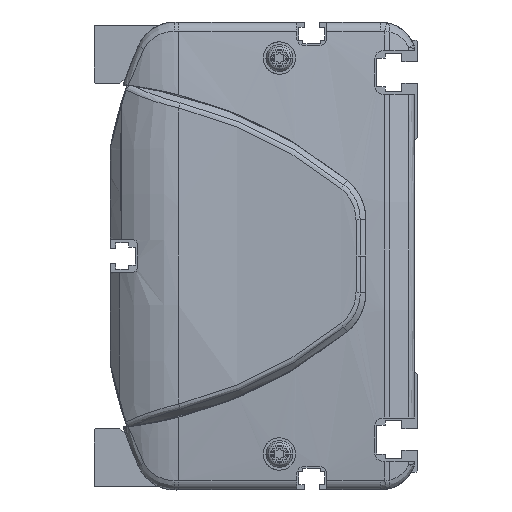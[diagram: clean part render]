
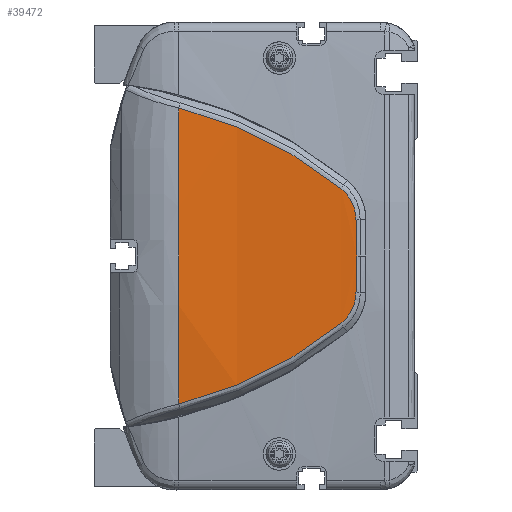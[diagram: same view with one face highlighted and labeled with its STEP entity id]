
A CAD part, left-side view. The second image highlights one B-rep face of the part: STEP entity #39472.
In plain terms, the highlighted cylindrical face has radius 500 mm (diameter 1000 mm), a partial arc.
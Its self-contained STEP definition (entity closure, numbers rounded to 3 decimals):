
#35728=CARTESIAN_POINT('',(486.,66.362,0.));
#35729=DIRECTION('',(0.,-1.,0.));
#35730=DIRECTION('',(-0.997,0.,0.082));
#35731=AXIS2_PLACEMENT_3D('',#35728,#35729,#35730);
#36612=CARTESIAN_POINT('',(-13.648,21.313,
-18.759));
#36613=CARTESIAN_POINT('',(-13.449,27.904,
-24.058));
#36614=CARTESIAN_POINT('',(-12.934,42.195,
-33.27));
#36615=CARTESIAN_POINT('',(-12.471,58.156,
-39.127));
#36616=CARTESIAN_POINT('',(-12.306,66.362,
-41.121));
#36618=CARTESIAN_POINT('',(-12.306,66.362,
41.121));
#36619=CARTESIAN_POINT('',(-12.471,58.156,
39.127));
#36620=CARTESIAN_POINT('',(-12.934,42.195,
33.27));
#36621=CARTESIAN_POINT('',(-13.449,27.904,
24.058));
#36622=CARTESIAN_POINT('',(-13.648,21.313,
18.759));
#36624=CARTESIAN_POINT('',(-13.648,21.313,
18.759));
#36625=CARTESIAN_POINT('',(-13.686,20.035,
17.736));
#36626=CARTESIAN_POINT('',(-13.779,17.936,
15.107));
#36627=CARTESIAN_POINT('',(-13.863,17.152,
11.827));
#36628=CARTESIAN_POINT('',(-13.896,17.124,
10.178));
#36630=CARTESIAN_POINT('',(-13.896,17.124,
10.178));
#36631=CARTESIAN_POINT('',(-13.92,17.107,
9.027));
#36632=CARTESIAN_POINT('',(-13.958,17.067,
6.737));
#36633=CARTESIAN_POINT('',(-13.993,16.98,
3.343));
#36634=CARTESIAN_POINT('',(-14.,16.898,
1.109));
#36635=CARTESIAN_POINT('',(-14.,16.849,
0.));
#36637=CARTESIAN_POINT('',(-14.,16.849,
0.));
#36638=CARTESIAN_POINT('',(-14.,16.898,
-1.109));
#36639=CARTESIAN_POINT('',(-13.993,16.98,
-3.343));
#36640=CARTESIAN_POINT('',(-13.959,17.067,
-6.736));
#36641=CARTESIAN_POINT('',(-13.92,17.107,
-9.029));
#36642=CARTESIAN_POINT('',(-13.896,17.124,
-10.18));
#36644=CARTESIAN_POINT('',(-13.896,17.124,
-10.18));
#36645=CARTESIAN_POINT('',(-13.863,17.152,
-11.828));
#36646=CARTESIAN_POINT('',(-13.779,17.937,
-15.109));
#36647=CARTESIAN_POINT('',(-13.686,20.035,
-17.736));
#36648=CARTESIAN_POINT('',(-13.648,21.313,
-18.759));
#37296=VERTEX_POINT('',#36612);
#37297=VERTEX_POINT('',#36616);
#37298=CARTESIAN_POINT('',(-12.306,66.362,
41.121));
#37299=VERTEX_POINT('',#37298);
#37300=VERTEX_POINT('',#36622);
#37301=VERTEX_POINT('',#36628);
#37302=VERTEX_POINT('',#36635);
#37303=VERTEX_POINT('',#36642);
#39453=CARTESIAN_POINT('',(486.,8.006,0.));
#39454=DIRECTION('',(0.,1.,0.));
#39455=DIRECTION('',(1.,0.,0.));
#39456=AXIS2_PLACEMENT_3D('',#39453,#39454,#39455);
#39457=CYLINDRICAL_SURFACE('',#39456,500.);
#39459=ORIENTED_EDGE('',*,*,#39458,.T.);
#39460=ORIENTED_EDGE('',*,*,#38098,.F.);
#39462=ORIENTED_EDGE('',*,*,#39461,.T.);
#39464=ORIENTED_EDGE('',*,*,#39463,.T.);
#39466=ORIENTED_EDGE('',*,*,#39465,.T.);
#39468=ORIENTED_EDGE('',*,*,#39467,.T.);
#39469=ORIENTED_EDGE('',*,*,#39443,.T.);
#39470=EDGE_LOOP('',(#39459,#39460,#39462,#39464,#39466,#39468,#39469));
#39471=FACE_OUTER_BOUND('',#39470,.F.);
#39472=ADVANCED_FACE('',(#39471),#39457,.T.);
#35732=CIRCLE('',#35731,500.);
#36617=B_SPLINE_CURVE_WITH_KNOTS('',3,(#36612,#36613,#36614,#36615,#36616),
.UNSPECIFIED.,.F.,.F.,(4,1,4),(0.,0.5,1.),.UNSPECIFIED.);
#36623=B_SPLINE_CURVE_WITH_KNOTS('',3,(#36618,#36619,#36620,#36621,#36622),
.UNSPECIFIED.,.F.,.F.,(4,1,4),(0.,0.5,1.),.UNSPECIFIED.);
#36629=B_SPLINE_CURVE_WITH_KNOTS('',3,(#36624,#36625,#36626,#36627,#36628),
.UNSPECIFIED.,.F.,.F.,(4,1,4),(0.,0.5,1.),.UNSPECIFIED.);
#36636=B_SPLINE_CURVE_WITH_KNOTS('',3,(#36630,#36631,#36632,#36633,#36634,
#36635),.UNSPECIFIED.,.F.,.F.,(4,1,1,4),(0.,0.333,
0.667,1.),.UNSPECIFIED.);
#36643=B_SPLINE_CURVE_WITH_KNOTS('',3,(#36637,#36638,#36639,#36640,#36641,
#36642),.UNSPECIFIED.,.F.,.F.,(4,1,1,4),(0.,0.333,
0.667,1.),.UNSPECIFIED.);
#36649=B_SPLINE_CURVE_WITH_KNOTS('',3,(#36644,#36645,#36646,#36647,#36648),
.UNSPECIFIED.,.F.,.F.,(4,1,4),(0.,0.5,1.),.UNSPECIFIED.);
#38098=EDGE_CURVE('',#37299,#37297,#35732,.T.);
#39443=EDGE_CURVE('',#37303,#37296,#36649,.T.);
#39458=EDGE_CURVE('',#37296,#37297,#36617,.T.);
#39461=EDGE_CURVE('',#37299,#37300,#36623,.T.);
#39463=EDGE_CURVE('',#37300,#37301,#36629,.T.);
#39465=EDGE_CURVE('',#37301,#37302,#36636,.T.);
#39467=EDGE_CURVE('',#37302,#37303,#36643,.T.);
